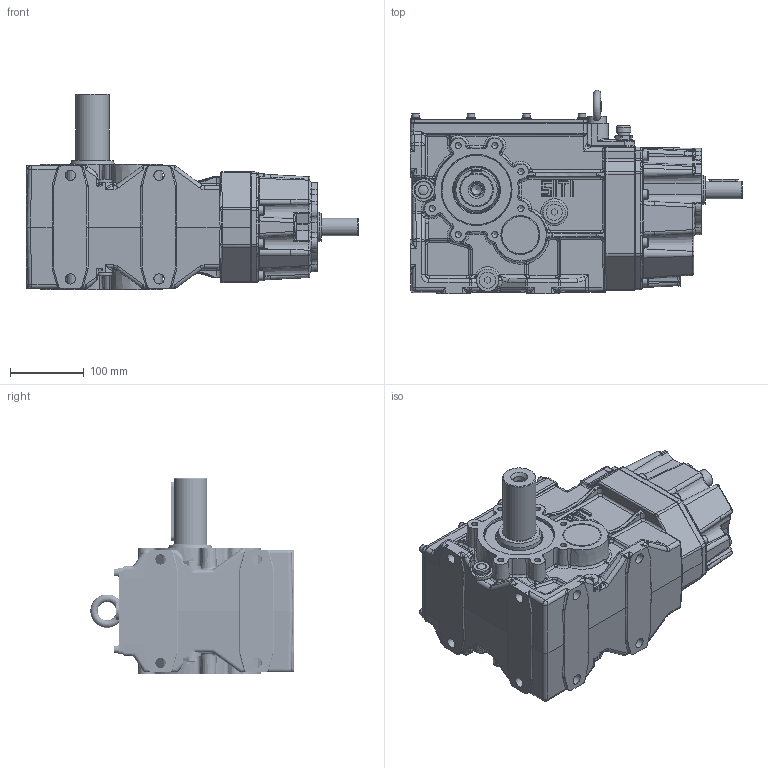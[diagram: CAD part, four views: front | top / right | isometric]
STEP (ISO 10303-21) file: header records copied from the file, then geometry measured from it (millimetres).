
FILE_DESCRIPTION((''),'2;1');
FILE_NAME('O:\Figurini\Figurini BH\3D\80\BH 80 MS-B.stp','2013-05-30T09:06:34',('d.iannaccio'),(''),'Autodesk Inventor 2012','Autodesk Inventor 2012','');
FILE_SCHEMA(('AUTOMOTIVE_DESIGN { 1 0 10303 214 1 1 1 1 }'));
Length unit declared in the file: millimetre
Products named in the file (1): BH_80 MS-B
Bounding box: 449 x 274.98 x 265 mm (x, y, z)
Volume: 4211739.4 mm3; surface area: 879890.7 mm2
Topology: 2 solids, 46 shells, 3440 faces, 8202 edges, 4833 vertices
Faces by surface type: cylinder 1047, plane 916, bspline 750, cone 323, torus 296, sphere 108
Full cylindrical faces by diameter (mm): 4.2 x1, 4.917 x8, 5 x1, 5.3 x1, 6 x16, 6.4 x8, 6.647 x16, 7 x8, 8 x14, 8.376 x15, 8.5 x2, 9 x8, 10 x16, 11.445 x1, 12.5 x8, 13 x8, 13.835 x1, 14 x8, 14.95 x7, 15.995 x1, 16 x2, 16.065 x1, 17 x2, 18 x1, 19 x1, 19.5 x1, 24 x1, 25 x1, 37.5 x2, 39.581 x1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
Entity records: 121640 total; most frequent: CARTESIAN_POINT 44772, DIRECTION 15057, ORIENTED_EDGE 14960, EDGE_CURVE 7480, AXIS2_PLACEMENT_3D 6275, VERTEX_POINT 4662, EDGE_LOOP 4041, STYLED_ITEM 3441
